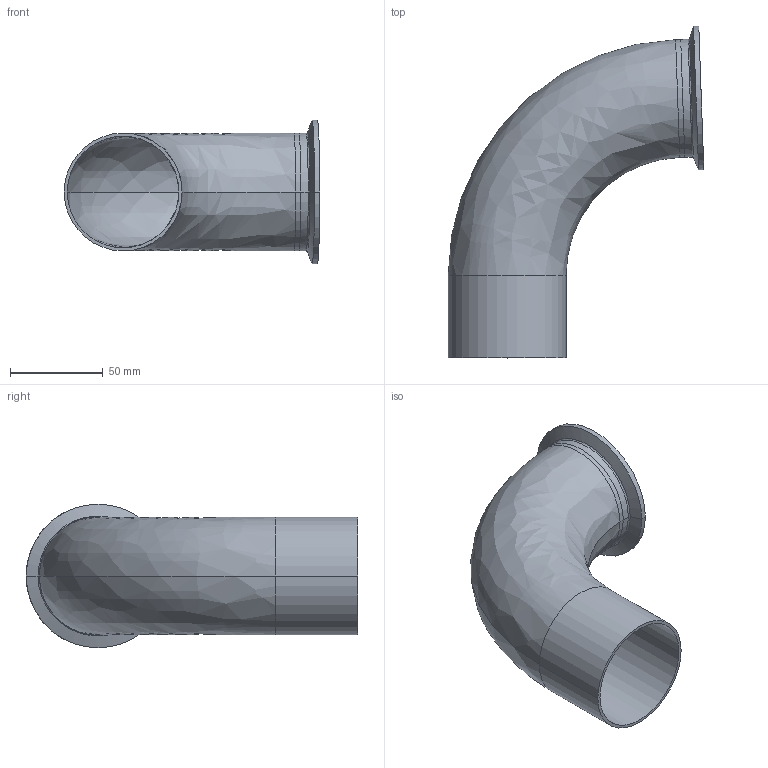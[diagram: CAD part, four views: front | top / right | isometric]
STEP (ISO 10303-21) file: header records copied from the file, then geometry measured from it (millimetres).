
FILE_DESCRIPTION (( 'STEP AP214' ), '1' );
FILE_NAME ('TE2C886L2.5-...STEP', '2016-05-22T07:59:09', ( 'eran' ), ( '' ), 'SwSTEP 2.0', 'SolidWorks 2016', '' );
FILE_SCHEMA (( 'AUTOMOTIVE_DESIGN' ));
Length unit declared in the file: millimetre
Products named in the file (1): TE2C886L2.5-..
Bounding box: 137.75 x 178.88 x 77.39 mm (x, y, z)
Volume: 71244.1 mm3; surface area: 83248.9 mm2
Topology: 2 solids, 2 shells, 39 faces, 92 edges, 58 vertices
Faces by surface type: bspline 14, cylinder 14, cone 6, plane 5
Entity records: 1912 total; most frequent: CARTESIAN_POINT 968, DIRECTION 204, ORIENTED_EDGE 184, AXIS2_PLACEMENT_3D 92, EDGE_CURVE 92, CIRCLE 66, VERTEX_POINT 58, EDGE_LOOP 44
